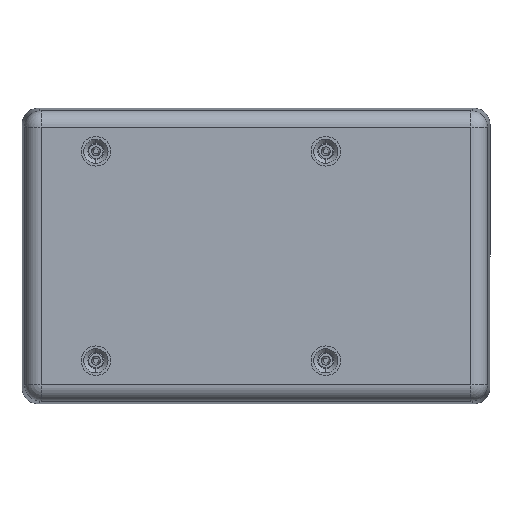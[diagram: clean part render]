
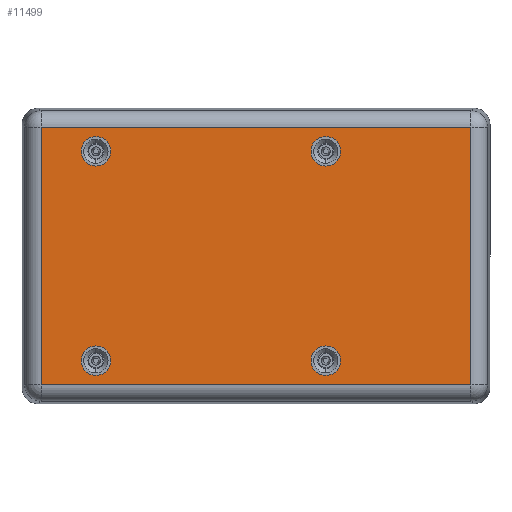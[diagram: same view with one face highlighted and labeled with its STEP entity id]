
A CAD part, front view. The second image highlights one B-rep face of the part: STEP entity #11499.
In plain terms, the highlighted planar face has unit normal (0, -1, 0).
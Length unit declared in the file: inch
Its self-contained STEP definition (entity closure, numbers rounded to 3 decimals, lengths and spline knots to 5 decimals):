
#11 = VERTEX_POINT ( 'NONE', #10930 ) ;
#359 = DIRECTION ( 'NONE',  ( 0., 0., -1. ) ) ;
#685 = FACE_BOUND ( 'NONE', #9993, .T. ) ;
#868 = VECTOR ( 'NONE', #16343, 39.37008 ) ;
#999 = VERTEX_POINT ( 'NONE', #2771 ) ;
#1050 = DIRECTION ( 'NONE',  ( 0., 0., 1. ) ) ;
#1212 = DIRECTION ( 'NONE',  ( 0., 1., 0. ) ) ;
#1297 = LINE ( 'NONE', #5579, #868 ) ;
#1404 = AXIS2_PLACEMENT_3D ( 'NONE', #16431, #8368, #359 ) ;
#1427 = EDGE_LOOP ( 'NONE', ( #5705, #13256 ) ) ;
#1623 = DIRECTION ( 'NONE',  ( 0., -1., 0. ) ) ;
#1767 = CARTESIAN_POINT ( 'NONE',  ( 0.66929, -1.112, 1.00394 ) ) ;
#1864 = EDGE_CURVE ( 'NONE', #4356, #13615, #16537, .T. ) ;
#2163 = EDGE_CURVE ( 'NONE', #11, #10141, #3468, .T. ) ;
#2534 = AXIS2_PLACEMENT_3D ( 'NONE', #15463, #7410, #16823 ) ;
#2633 = VERTEX_POINT ( 'NONE', #3898 ) ;
#2744 = CIRCLE ( 'NONE', #2534, 0.14173 ) ;
#2771 = CARTESIAN_POINT ( 'NONE',  ( 0.66929, -1.112, -0.8622 ) ) ;
#2925 = EDGE_LOOP ( 'NONE', ( #13618, #17071, #16726, #15699 ) ) ;
#2992 = EDGE_CURVE ( 'NONE', #10319, #11960, #9114, .T. ) ;
#3091 = DIRECTION ( 'NONE',  ( 0., 0., -1. ) ) ;
#3120 = CARTESIAN_POINT ( 'NONE',  ( -1.53543, -1.112, 1.14567 ) ) ;
#3122 = EDGE_CURVE ( 'NONE', #2633, #9420, #17342, .T. ) ;
#3316 = DIRECTION ( 'NONE',  ( 1., 0., 0. ) ) ;
#3318 = CARTESIAN_POINT ( 'NONE',  ( -1.53543, -1.112, -0.8622 ) ) ;
#3404 = CIRCLE ( 'NONE', #12167, 0.14173 ) ;
#3468 = LINE ( 'NONE', #13512, #14626 ) ;
#3531 = CIRCLE ( 'NONE', #9257, 0.14173 ) ;
#3533 = ORIENTED_EDGE ( 'NONE', *, *, #7086, .F. ) ;
#3898 = CARTESIAN_POINT ( 'NONE',  ( -1.53543, -1.112, 0.8622 ) ) ;
#3973 = AXIS2_PLACEMENT_3D ( 'NONE', #13247, #5207, #14614 ) ;
#4227 = FACE_BOUND ( 'NONE', #11085, .T. ) ;
#4356 = VERTEX_POINT ( 'NONE', #10229 ) ;
#4427 = EDGE_LOOP ( 'NONE', ( #5183, #10241 ) ) ;
#4865 = VECTOR ( 'NONE', #1050, 39.37008 ) ;
#5183 = ORIENTED_EDGE ( 'NONE', *, *, #3122, .F. ) ;
#5207 = DIRECTION ( 'NONE',  ( 0., -1., 0. ) ) ;
#5544 = EDGE_CURVE ( 'NONE', #999, #6030, #9016, .T. ) ;
#5579 = CARTESIAN_POINT ( 'NONE',  ( -2.06157, -1.112, -1.3882 ) ) ;
#5705 = ORIENTED_EDGE ( 'NONE', *, *, #13827, .F. ) ;
#5911 = CARTESIAN_POINT ( 'NONE',  ( 0.66929, -1.112, -1.14567 ) ) ;
#6030 = VERTEX_POINT ( 'NONE', #5911 ) ;
#6088 = CARTESIAN_POINT ( 'NONE',  ( -1.53543, -1.112, -1.00394 ) ) ;
#6138 = CARTESIAN_POINT ( 'NONE',  ( -1.53543, -1.112, -1.00394 ) ) ;
#6262 = EDGE_CURVE ( 'NONE', #11960, #10319, #9019, .T. ) ;
#6305 = CARTESIAN_POINT ( 'NONE',  ( 2.06157, -1.112, 1.3882 ) ) ;
#6771 = CARTESIAN_POINT ( 'NONE',  ( 0.66929, -1.112, 1.14567 ) ) ;
#7086 = EDGE_CURVE ( 'NONE', #11887, #8532, #3531, .T. ) ;
#7285 = ORIENTED_EDGE ( 'NONE', *, *, #6262, .F. ) ;
#7340 = AXIS2_PLACEMENT_3D ( 'NONE', #1767, #11150, #3091 ) ;
#7410 = DIRECTION ( 'NONE',  ( 0., -1., 0. ) ) ;
#7438 = DIRECTION ( 'NONE',  ( 0., 0., -1. ) ) ;
#7479 = DIRECTION ( 'NONE',  ( 0., -1., 0. ) ) ;
#7484 = DIRECTION ( 'NONE',  ( 0., 0., -1. ) ) ;
#7799 = FACE_BOUND ( 'NONE', #4427, .T. ) ;
#7880 = CARTESIAN_POINT ( 'NONE',  ( 0., -1.112, 0. ) ) ;
#8221 = FACE_BOUND ( 'NONE', #1427, .T. ) ;
#8368 = DIRECTION ( 'NONE',  ( 0., -1., 0. ) ) ;
#8432 = LINE ( 'NONE', #6305, #4865 ) ;
#8532 = VERTEX_POINT ( 'NONE', #3318 ) ;
#8889 = CARTESIAN_POINT ( 'NONE',  ( -2.06157, -1.112, 1.23479 ) ) ;
#9016 = CIRCLE ( 'NONE', #1404, 0.14173 ) ;
#9019 = CIRCLE ( 'NONE', #3973, 0.14173 ) ;
#9114 = CIRCLE ( 'NONE', #7340, 0.14173 ) ;
#9257 = AXIS2_PLACEMENT_3D ( 'NONE', #6138, #15543, #7484 ) ;
#9420 = VERTEX_POINT ( 'NONE', #3120 ) ;
#9499 = ORIENTED_EDGE ( 'NONE', *, *, #2992, .F. ) ;
#9637 = CARTESIAN_POINT ( 'NONE',  ( 0.66929, -1.112, -1.00394 ) ) ;
#9993 = EDGE_LOOP ( 'NONE', ( #3533, #10689 ) ) ;
#10141 = VERTEX_POINT ( 'NONE', #8889 ) ;
#10229 = CARTESIAN_POINT ( 'NONE',  ( -2.06157, -1.112, -1.23479 ) ) ;
#10241 = ORIENTED_EDGE ( 'NONE', *, *, #16842, .F. ) ;
#10319 = VERTEX_POINT ( 'NONE', #6771 ) ;
#10597 = DIRECTION ( 'NONE',  ( 0., 0., 1. ) ) ;
#10689 = ORIENTED_EDGE ( 'NONE', *, *, #14866, .F. ) ;
#10930 = CARTESIAN_POINT ( 'NONE',  ( 2.06157, -1.112, 1.23479 ) ) ;
#11012 = DIRECTION ( 'NONE',  ( 0., 0., -1. ) ) ;
#11085 = EDGE_LOOP ( 'NONE', ( #7285, #9499 ) ) ;
#11150 = DIRECTION ( 'NONE',  ( 0., -1., 0. ) ) ;
#11306 = CIRCLE ( 'NONE', #13852, 0.14173 ) ;
#11499 = ADVANCED_FACE ( 'NONE', ( #4227, #7799, #8221, #685, #14541 ), #17302, .F. ) ;
#11760 = CARTESIAN_POINT ( 'NONE',  ( 2.06157, -1.112, -1.23479 ) ) ;
#11887 = VERTEX_POINT ( 'NONE', #13026 ) ;
#11960 = VERTEX_POINT ( 'NONE', #17219 ) ;
#12098 = VECTOR ( 'NONE', #3316, 39.37008 ) ;
#12167 = AXIS2_PLACEMENT_3D ( 'NONE', #6088, #15494, #7438 ) ;
#12176 = EDGE_CURVE ( 'NONE', #10141, #4356, #1297, .T. ) ;
#12442 = DIRECTION ( 'NONE',  ( -1., 0., 0. ) ) ;
#12711 = CARTESIAN_POINT ( 'NONE',  ( 2.21498, -1.112, -1.23479 ) ) ;
#13026 = CARTESIAN_POINT ( 'NONE',  ( -1.53543, -1.112, -1.14567 ) ) ;
#13247 = CARTESIAN_POINT ( 'NONE',  ( 0.66929, -1.112, 1.00394 ) ) ;
#13256 = ORIENTED_EDGE ( 'NONE', *, *, #5544, .F. ) ;
#13512 = CARTESIAN_POINT ( 'NONE',  ( -2.21498, -1.112, 1.23479 ) ) ;
#13615 = VERTEX_POINT ( 'NONE', #11760 ) ;
#13618 = ORIENTED_EDGE ( 'NONE', *, *, #2163, .T. ) ;
#13827 = EDGE_CURVE ( 'NONE', #6030, #999, #11306, .T. ) ;
#13852 = AXIS2_PLACEMENT_3D ( 'NONE', #9637, #1623, #11012 ) ;
#14541 = FACE_OUTER_BOUND ( 'NONE', #2925, .T. ) ;
#14584 = AXIS2_PLACEMENT_3D ( 'NONE', #15536, #7479, #16906 ) ;
#14614 = DIRECTION ( 'NONE',  ( 0., 0., -1. ) ) ;
#14626 = VECTOR ( 'NONE', #12442, 39.37008 ) ;
#14866 = EDGE_CURVE ( 'NONE', #8532, #11887, #3404, .T. ) ;
#15463 = CARTESIAN_POINT ( 'NONE',  ( -1.53543, -1.112, 1.00394 ) ) ;
#15494 = DIRECTION ( 'NONE',  ( 0., -1., 0. ) ) ;
#15536 = CARTESIAN_POINT ( 'NONE',  ( -1.53543, -1.112, 1.00394 ) ) ;
#15543 = DIRECTION ( 'NONE',  ( 0., -1., 0. ) ) ;
#15699 = ORIENTED_EDGE ( 'NONE', *, *, #16174, .T. ) ;
#16174 = EDGE_CURVE ( 'NONE', #13615, #11, #8432, .T. ) ;
#16343 = DIRECTION ( 'NONE',  ( 0., 0., -1. ) ) ;
#16431 = CARTESIAN_POINT ( 'NONE',  ( 0.66929, -1.112, -1.00394 ) ) ;
#16537 = LINE ( 'NONE', #12711, #12098 ) ;
#16726 = ORIENTED_EDGE ( 'NONE', *, *, #1864, .T. ) ;
#16823 = DIRECTION ( 'NONE',  ( 0., 0., -1. ) ) ;
#16842 = EDGE_CURVE ( 'NONE', #9420, #2633, #2744, .T. ) ;
#16906 = DIRECTION ( 'NONE',  ( 0., 0., -1. ) ) ;
#17071 = ORIENTED_EDGE ( 'NONE', *, *, #12176, .T. ) ;
#17211 = AXIS2_PLACEMENT_3D ( 'NONE', #7880, #1212, #10597 ) ;
#17219 = CARTESIAN_POINT ( 'NONE',  ( 0.66929, -1.112, 0.8622 ) ) ;
#17302 = PLANE ( 'NONE',  #17211 ) ;
#17342 = CIRCLE ( 'NONE', #14584, 0.14173 ) ;
